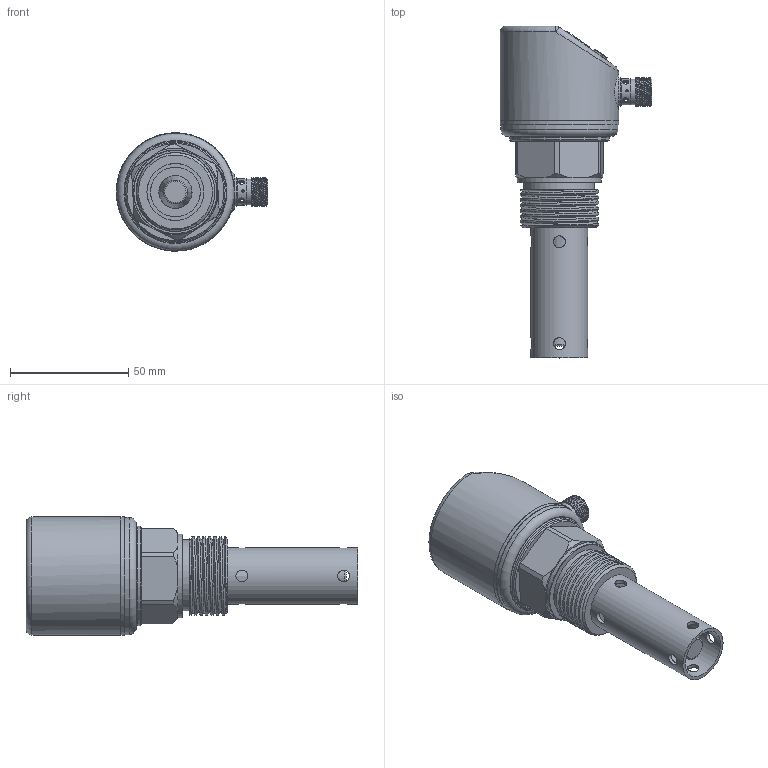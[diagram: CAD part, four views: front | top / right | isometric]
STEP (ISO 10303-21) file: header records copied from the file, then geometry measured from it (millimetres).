
FILE_DESCRIPTION (( 'STEP AP214' ), '1' );
FILE_NAME ('G1数显电容-50（同轴）.STEP', '2025-03-11T06:29:26', ( '' ), ( '' ), 'SwSTEP 2.0', 'SolidWorks 2020', '' );
FILE_SCHEMA (( 'AUTOMOTIVE_DESIGN' ));
Length unit declared in the file: millimetre
Products named in the file (9): G1数显电容-50（同轴）; 揤薯奻裔; 偌瑩簽; 肮粣奪; 揤薯珆尨欶; 滅阨諉芛褲极1; 抻芛ㄗ蟀哿講ㄘ; G1̽ͷ; PVC躇猾菜
Assembly tree (10 placements, depth 2):
  G1数显电容-50（同轴）
    揤薯奻裔
    揤薯珆尨欶
    滅阨諉芛褲极1
    偌瑩簽  x3
    PVC躇猾菜
    抻芛ㄗ蟀哿講ㄘ
    肮粣奪
    G1̽ͷ
Bounding box: 64 x 140.1 x 50 mm (x, y, z)
Volume: 58362.6 mm3; surface area: 43794.4 mm2
Topology: 10 solids, 10 shells, 321 faces, 759 edges, 491 vertices
Faces by surface type: plane 129, cylinder 118, cone 48, bspline 11, torus 11, sphere 4
Full cylindrical faces by diameter (mm): 1 x4, 1.2 x3, 1.8 x1, 2 x3, 2.5 x6, 2.8 x1, 4.3 x3, 4.5 x6, 5 x8, 6 x1, 7.2 x1, 8 x1, 8.5 x1, 9.75 x1, 10 x1, 10.49 x1, 10.5 x1, 10.8 x1, 10.9 x1, 11 x2, 12 x1, 21 x2, 24 x1, 30 x1, 35 x1, 35.5 x1, 42 x1, 43.9 x1, 45.4 x1, 45.6 x2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
Entity records: 13635 total; most frequent: CARTESIAN_POINT 6743, DIRECTION 1341, ORIENTED_EDGE 1134, EDGE_CURVE 567, AXIS2_PLACEMENT_3D 545, EDGE_LOOP 480, VERTEX_POINT 421, FACE_OUTER_BOUND 362
